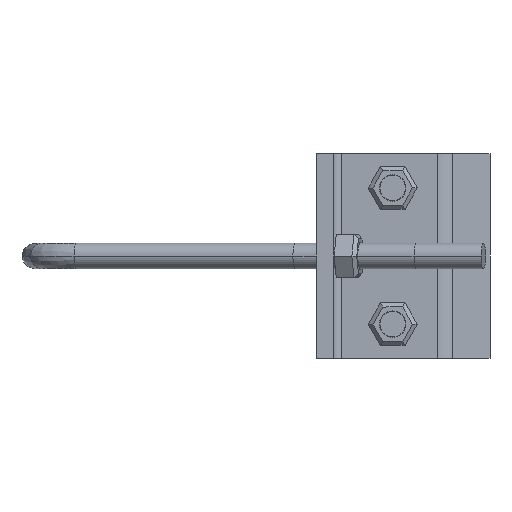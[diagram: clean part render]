
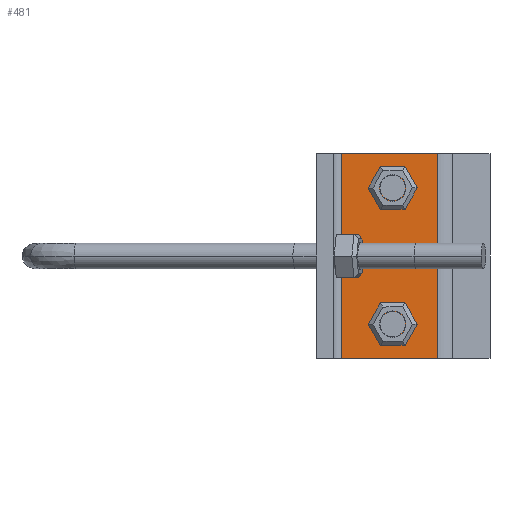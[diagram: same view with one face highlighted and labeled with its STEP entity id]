
A CAD part, front view. The second image highlights one B-rep face of the part: STEP entity #481.
In plain terms, the highlighted planar face has unit normal (0, -1, 0).
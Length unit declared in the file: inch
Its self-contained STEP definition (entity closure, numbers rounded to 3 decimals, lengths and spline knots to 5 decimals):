
#409=EDGE_CURVE('',#1075,#1076,#1077,.T.);
#425=EDGE_CURVE('',#1102,#1076,#1103,.T.);
#481=ADVANCED_FACE('',(#1196),#1197,.T.);
#657=EDGE_CURVE('',#1459,#1102,#1460,.T.);
#739=EDGE_CURVE('',#1459,#1075,#1574,.T.);
#1075=VERTEX_POINT('',#1997);
#1076=VERTEX_POINT('',#1998);
#1077=LINE('',#1999,#2000);
#1102=VERTEX_POINT('',#2234);
#1103=LINE('',#2235,#2236);
#1196=FACE_OUTER_BOUND('',#2505,.T.);
#1197=PLANE('',#2506);
#1459=VERTEX_POINT('',#3130);
#1460=LINE('',#3131,#3132);
#1574=LINE('',#3321,#3322);
#1997=CARTESIAN_POINT('',(5.30914,-0.02178,3.0));
#1998=CARTESIAN_POINT('',(3.89752,-0.02178,3.0));
#1999=CARTESIAN_POINT('',(5.30914,-0.02178,3.0));
#2000=VECTOR('',#4238,1.0);
#2234=CARTESIAN_POINT('',(3.89752,-0.02178,0.0));
#2235=CARTESIAN_POINT('',(3.89752,-0.02178,0.0));
#2236=VECTOR('',#4275,1.0);
#2505=EDGE_LOOP('',(#4388,#4389,#4390,#4391));
#2506=AXIS2_PLACEMENT_3D('',#4392,#4393,#4394);
#3130=CARTESIAN_POINT('',(5.30914,-0.02178,0.0));
#3131=CARTESIAN_POINT('',(5.30914,-0.02178,0.0));
#3132=VECTOR('',#4654,1.0);
#3321=CARTESIAN_POINT('',(5.30914,-0.02178,0.0));
#3322=VECTOR('',#4808,1.0);
#4238=DIRECTION('',(-1.0,0.0,0.0));
#4275=DIRECTION('',(0.0,0.0,1.0));
#4388=ORIENTED_EDGE('',*,*,#409,.T.);
#4389=ORIENTED_EDGE('',*,*,#425,.F.);
#4390=ORIENTED_EDGE('',*,*,#657,.F.);
#4391=ORIENTED_EDGE('',*,*,#739,.T.);
#4392=CARTESIAN_POINT('',(4.60333,-0.02178,0.0));
#4393=DIRECTION('',(0.0,-1.0,0.0));
#4394=DIRECTION('',(1.0,0.0,0.0));
#4654=DIRECTION('',(-1.0,0.0,0.0));
#4808=DIRECTION('',(0.0,0.0,1.0));
